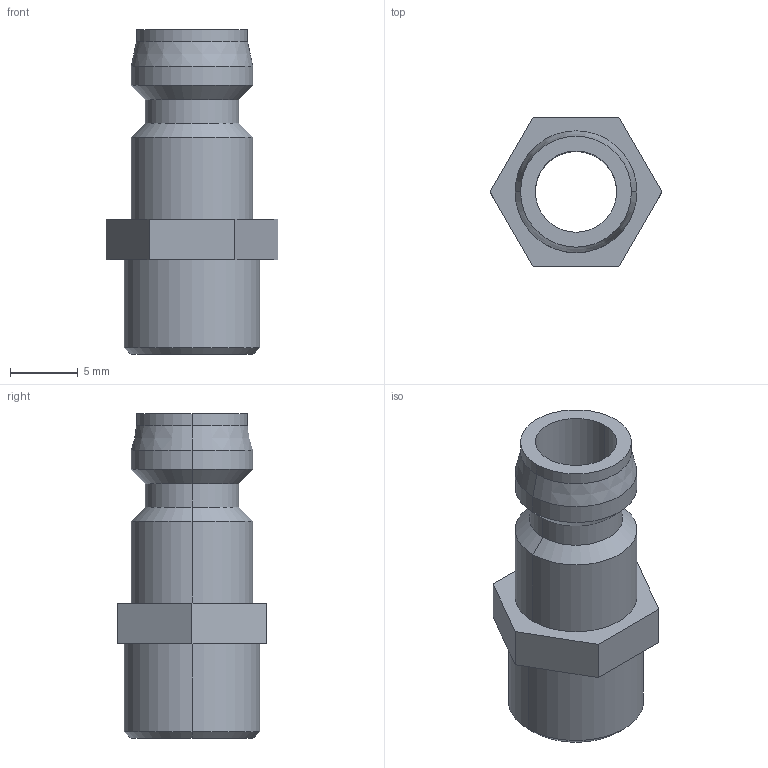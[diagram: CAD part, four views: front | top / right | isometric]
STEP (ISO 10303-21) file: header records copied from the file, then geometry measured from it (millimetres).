
FILE_DESCRIPTION(('STEP AP214'),'1');
FILE_NAME('cctmp_6C35E129-7EB9-4A9D-980E-3C8DCF19FAB0_2026_10_03_12_25_12_0661_24820..stp','2026-10-03T10:25:12',('KiM GmbH'),('CADClick - www.CADClick.com'),'Spatial InterOp 3D',' ','unknown authorization');
FILE_SCHEMA(('AUTOMOTIVE_DESIGN'));
Length unit declared in the file: millimetre
Products named in the file (1): E 2000_9_10_1
Bounding box: 12.7 x 11 x 24 mm (x, y, z)
Volume: 971.9 mm3; surface area: 1307.1 mm2
Topology: 1 solids, 1 shells, 32 faces, 68 edges, 40 vertices
Faces by surface type: cylinder 12, cone 10, plane 10
Entity records: 1136 total; most frequent: DIRECTION 162, CARTESIAN_POINT 141, ORIENTED_EDGE 136, EDGE_CURVE 68, AXIS2_PLACEMENT_3D 61, VERTEX_POINT 40, LINE 40, VECTOR 40
